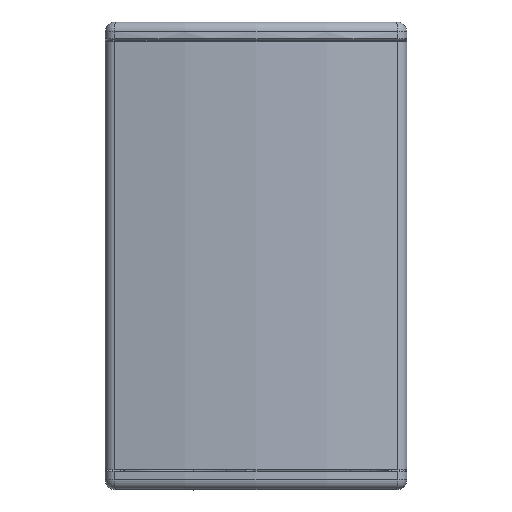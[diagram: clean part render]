
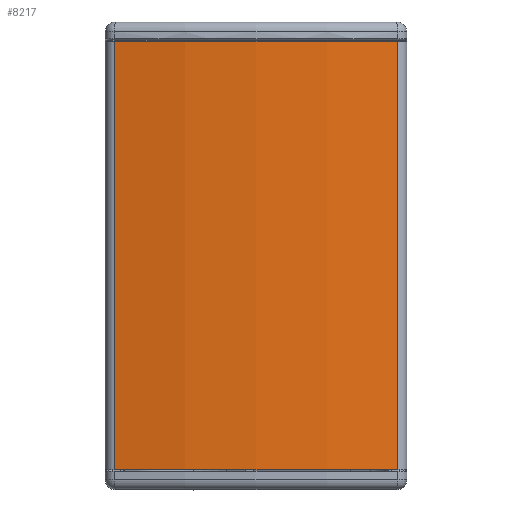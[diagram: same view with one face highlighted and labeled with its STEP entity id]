
A CAD part, top view. The second image highlights one B-rep face of the part: STEP entity #8217.
In plain terms, the highlighted cylindrical face has radius 450 mm (diameter 900 mm), a partial arc.
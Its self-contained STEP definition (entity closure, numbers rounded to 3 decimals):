
#546 = CARTESIAN_POINT ( 'NONE',  ( -88.953, -7.42, 89.058 ) ) ;
#549 = CARTESIAN_POINT ( 'NONE',  ( 99.182, -7.42, 89.058 ) ) ;
#611 = CARTESIAN_POINT ( 'NONE',  ( 99.182, 276.58, 89.058 ) ) ;
#731 = CARTESIAN_POINT ( 'NONE',  ( -88.953, 276.58, 89.058 ) ) ;
#1916 = FACE_OUTER_BOUND ( 'NONE', #3949, .T. ) ;
#1917 = CYLINDRICAL_SURFACE ( 'NONE', #3324, 450. ) ;
#2418 = EDGE_CURVE ( 'NONE', #7914, #7721, #5797, .T. ) ;
#2420 = EDGE_CURVE ( 'NONE', #7721, #7725, #5802, .T. ) ;
#2421 = EDGE_CURVE ( 'NONE', #7787, #7725, #5801, .T. ) ;
#2422 = EDGE_CURVE ( 'NONE', #7914, #7787, #5804, .T. ) ;
#2622 = AXIS2_PLACEMENT_3D ( 'NONE', #6748, #6749, #6750 ) ;
#2623 = AXIS2_PLACEMENT_3D ( 'NONE', #6753, #6754, #6755 ) ;
#3324 = AXIS2_PLACEMENT_3D ( 'NONE', #3456, #3457, #3458 ) ;
#3456 = CARTESIAN_POINT ( 'NONE',  ( 5.114, 276.58, -351. ) ) ;
#3457 = DIRECTION ( 'NONE',  ( 0., -1., 0. ) ) ;
#3458 = DIRECTION ( 'NONE',  ( 0., 0., -1. ) ) ;
#3949 = EDGE_LOOP ( 'NONE', ( #4161, #4160, #4159, #4158 ) ) ;
#4158 = ORIENTED_EDGE ( 'NONE', *, *, #2418, .T. ) ;
#4159 = ORIENTED_EDGE ( 'NONE', *, *, #2422, .F. ) ;
#4160 = ORIENTED_EDGE ( 'NONE', *, *, #2421, .F. ) ;
#4161 = ORIENTED_EDGE ( 'NONE', *, *, #2420, .T. ) ;
#5797 = LINE ( 'NONE', #6743, #5799 ) ;
#5799 = VECTOR ( 'NONE', #6744, 1000. ) ;
#5801 = LINE ( 'NONE', #6751, #5803 ) ;
#5802 = CIRCLE ( 'NONE', #2622, 450. ) ;
#5803 = VECTOR ( 'NONE', #6752, 1000. ) ;
#5804 = CIRCLE ( 'NONE', #2623, 450. ) ;
#6743 = CARTESIAN_POINT ( 'NONE',  ( -88.953, 276.58, 89.058 ) ) ;
#6744 = DIRECTION ( 'NONE',  ( 0., -1., 0. ) ) ;
#6748 = CARTESIAN_POINT ( 'NONE',  ( 5.114, -7.42, -351. ) ) ;
#6749 = DIRECTION ( 'NONE',  ( 0., 1., 0. ) ) ;
#6750 = DIRECTION ( 'NONE',  ( 0., 0., 1. ) ) ;
#6751 = CARTESIAN_POINT ( 'NONE',  ( 99.182, 276.58, 89.058 ) ) ;
#6752 = DIRECTION ( 'NONE',  ( 0., -1., 0. ) ) ;
#6753 = CARTESIAN_POINT ( 'NONE',  ( 5.114, 276.58, -351. ) ) ;
#6754 = DIRECTION ( 'NONE',  ( 0., 1., 0. ) ) ;
#6755 = DIRECTION ( 'NONE',  ( 0., 0., 1. ) ) ;
#7721 = VERTEX_POINT ( 'NONE', #546 ) ;
#7725 = VERTEX_POINT ( 'NONE', #549 ) ;
#7787 = VERTEX_POINT ( 'NONE', #611 ) ;
#7914 = VERTEX_POINT ( 'NONE', #731 ) ;
#8217 = ADVANCED_FACE ( 'NONE', ( #1916 ), #1917, .T. ) ;
